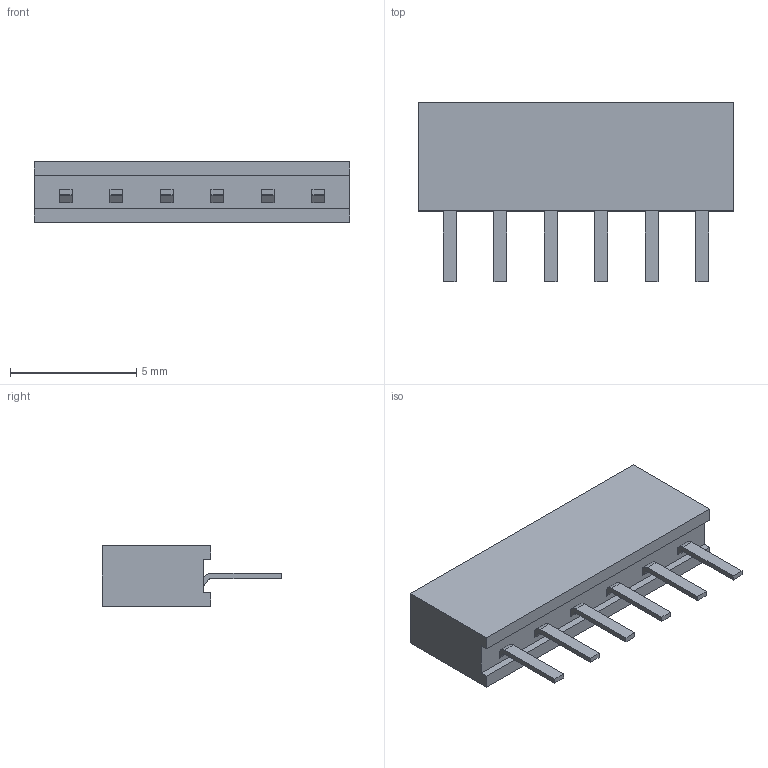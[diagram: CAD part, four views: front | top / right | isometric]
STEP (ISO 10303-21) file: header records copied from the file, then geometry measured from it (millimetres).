
FILE_DESCRIPTION (( 'STEP AP214' ), '1' );
FILE_NAME ('PM200-1-6-Z-4.3-XX(L7.1) (2.00等齬 眻齬譫 呿詢4.3-HCTL).STEP', '2024-11-06T10:00:26', ( '' ), ( '' ), 'SwSTEP 2.0', 'SolidWorks 2022', '' );
FILE_SCHEMA (( 'AUTOMOTIVE_DESIGN' ));
Length unit declared in the file: millimetre
Products named in the file (1): PM200-1-6-Z-4.3-XX(L7.1) (2.00等齬 眻齬譫 呿詢4.3-HCTL)
Bounding box: 12.5 x 7.1 x 2.4 mm (x, y, z)
Volume: 123.6 mm3; surface area: 227.6 mm2
Topology: 1 solids, 1 shells, 118 faces, 288 edges, 184 vertices
Faces by surface type: plane 106, cylinder 12
Entity records: 4012 total; most frequent: CARTESIAN_POINT 591, ORIENTED_EDGE 576, DIRECTION 550, EDGE_CURVE 288, LINE 264, VECTOR 264, VERTEX_POINT 184, AXIS2_PLACEMENT_3D 143
